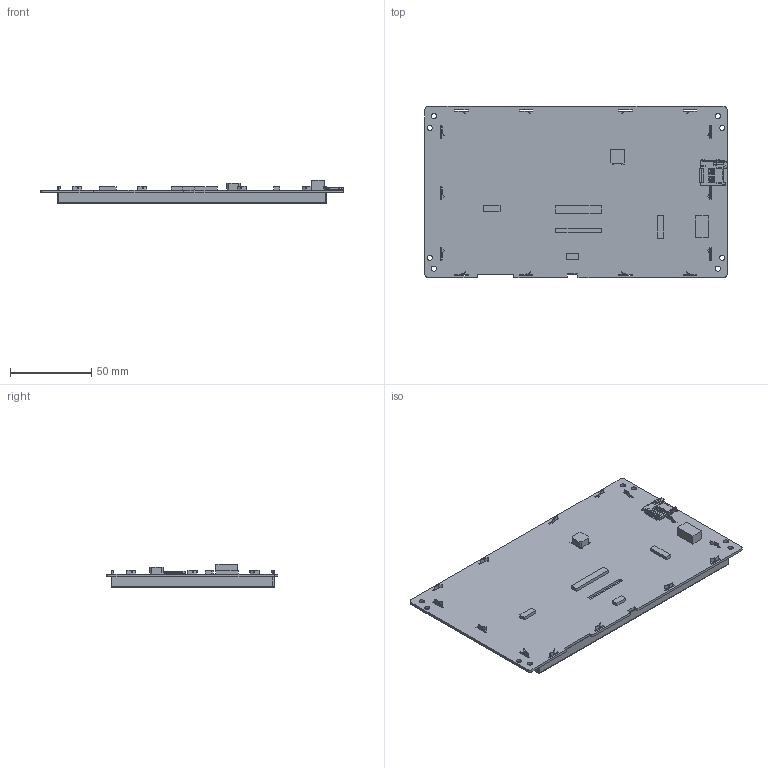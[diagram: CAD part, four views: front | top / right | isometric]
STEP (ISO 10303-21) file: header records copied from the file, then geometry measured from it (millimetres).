
FILE_DESCRIPTION(/* description */ (''),/* implementation_level */ '2;1');
FILE_NAME(/* name */ '',/* time_stamp */ '2023-11-30T19:54:55+08:00',/* author */ (''),/* organization */ (''),/* preprocessor_version */ 'ST-DEVELOPER v11',/* originating_system */ 'SIEMENS PLM Software NX 7.5',/* authorisation */ '');
FILE_SCHEMA (('AP203_CONFIGURATION_CONTROLLED_3D_DESIGN_OF_MECHANICAL_PARTS_AND_ASSEMBLIES_MIM_LF'));
Length unit declared in the file: millimetre
Products named in the file (1): 3D-SDWb070T77N_stp
Bounding box: 186.3 x 105.4 x 14.3 mm (x, y, z)
Volume: 217328.3 mm3; surface area: 117339.2 mm2
Topology: 13 solids, 13 shells, 1220 faces, 3464 edges, 2248 vertices
Faces by surface type: plane 930, cylinder 286, extrusion 3, cone 1
Full cylindrical faces by diameter (mm): 3.2 x8
Entity records: 39894 total; most frequent: CARTESIAN_POINT 7480, ORIENTED_EDGE 6912, DIRECTION 6335, EDGE_CURVE 3456, VECTOR 2745, LINE 2742, VERTEX_POINT 2248, AXIS2_PLACEMENT_3D 1795
